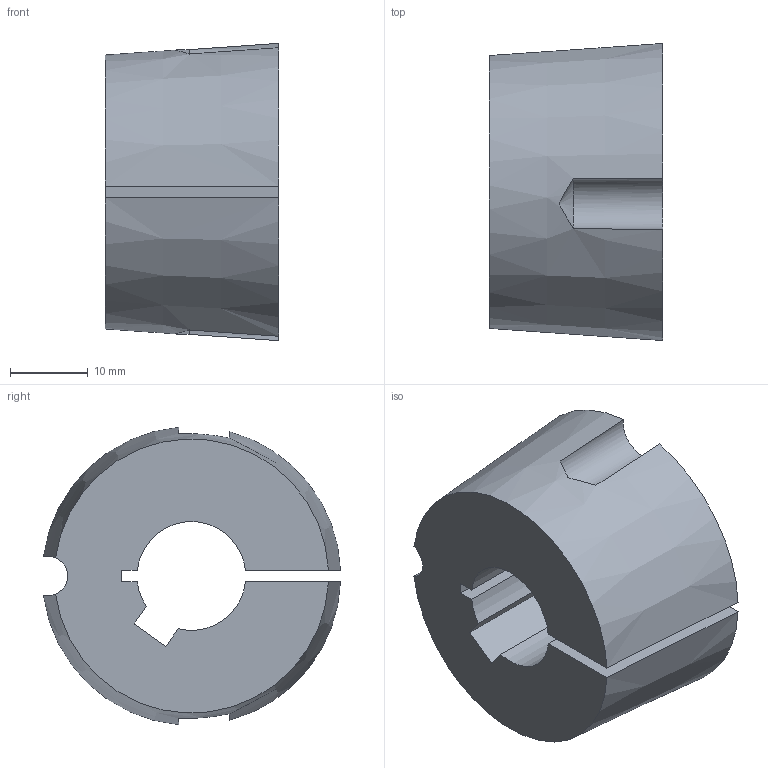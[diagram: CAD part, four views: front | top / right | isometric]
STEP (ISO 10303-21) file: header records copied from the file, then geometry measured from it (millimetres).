
FILE_DESCRIPTION( ( 'STEP AP203' ), '1' );
FILE_NAME( 'D:/export/antriebselemente/spannbuchsen_und_spannsaetze/taper-spannbuchsen_1008_bis_5050/taper-spannbuchsen_62250214Isometric_21.stp', '2018-12-11T11:10:58', ( '' ), ( '' ), ' ', 'PARTsolutions', ' ' );
FILE_SCHEMA( ( 'CONFIG_CONTROL_DESIGN' ) );
Length unit declared in the file: millimetre
Products named in the file (1): _taper-spannbuchsen_62250214
Bounding box: 22.3 x 38.22 x 38.26 mm (x, y, z)
Volume: 18974.2 mm3; surface area: 6089.2 mm2
Topology: 1 solids, 1 shells, 20 faces, 54 edges, 36 vertices
Faces by surface type: plane 10, cylinder 6, cone 4
Entity records: 736 total; most frequent: CARTESIAN_POINT 187, ORIENTED_EDGE 108, DIRECTION 104, EDGE_CURVE 54, AXIS2_PLACEMENT_3D 39, VERTEX_POINT 36, LINE 26, VECTOR 26
